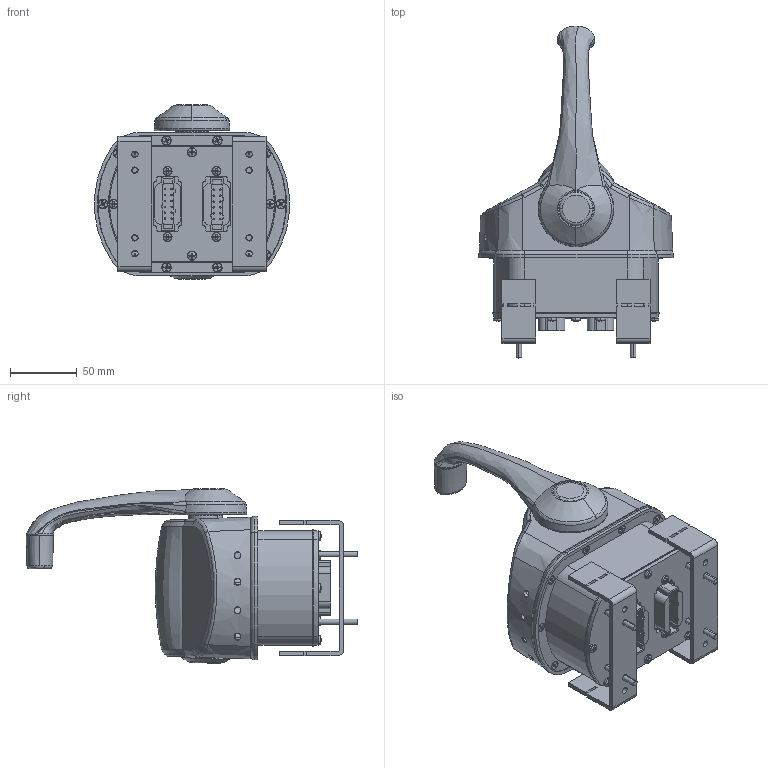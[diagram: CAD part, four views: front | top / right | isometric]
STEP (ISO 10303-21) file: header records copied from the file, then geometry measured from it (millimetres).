
FILE_DESCRIPTION((''),'2;1');
FILE_NAME('SINGLE_CH_164000-4101X_ASM_ASM','2016-06-14T',('ib46307'),(''),'PRO/ENGINEER BY PARAMETRIC TECHNOLOGY CORPORATION, 2015360','PRO/ENGINEER BY PARAMETRIC TECHNOLOGY CORPORATION, 2015360','');
FILE_SCHEMA(('CONFIG_CONTROL_DESIGN'));
Products named in the file (2): _SINGLE_CH_164000-4101X_ASM; SINGLE_CH_164000-4101X_ASM_ASM
Assembly tree (1 placements, depth 2):
  SINGLE_CH_164000-4101X_ASM_ASM
    _SINGLE_CH_164000-4101X_ASM
Bounding box: 146.13 x 249.09 x 131.23 mm (x, y, z)
Volume: 236043.8 mm3; surface area: 234454.5 mm2
Topology: 20 solids, 46 shells, 2819 faces, 7262 edges, 4600 vertices
Faces by surface type: plane 1182, cylinder 1100, bspline 191, torus 102, cone 92, sphere 84, extrusion 68
Entity records: 107918 total; most frequent: CARTESIAN_POINT 40355, ORIENTED_EDGE 14147, DIRECTION 13610, EDGE_CURVE 7175, AXIS2_PLACEMENT_3D 4864, VERTEX_POINT 4600, VECTOR 3882, LINE 3814
